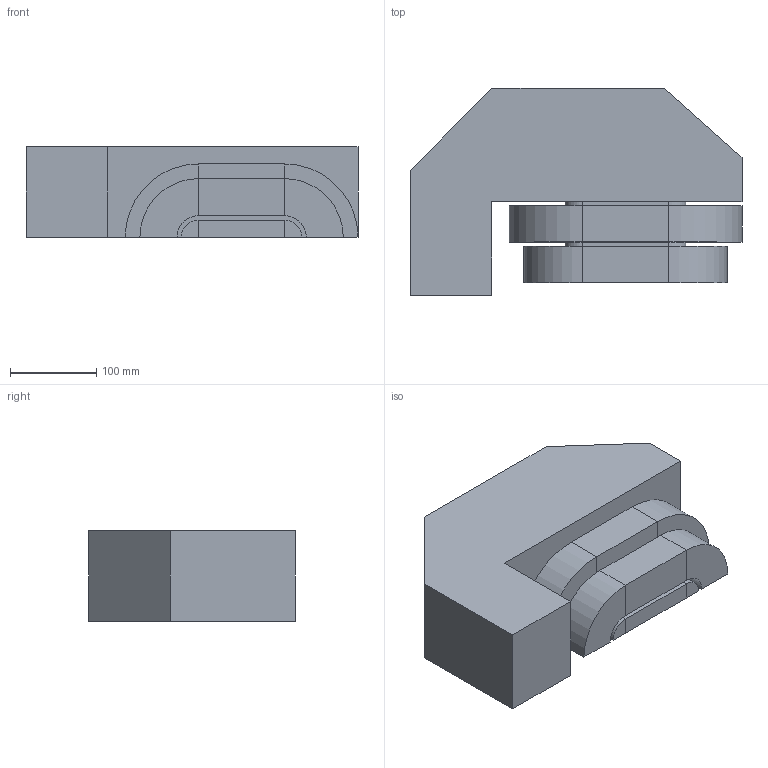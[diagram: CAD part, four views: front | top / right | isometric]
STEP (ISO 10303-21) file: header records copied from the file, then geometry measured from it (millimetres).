
FILE_DESCRIPTION(('STEP AP214'),'1');
FILE_NAME('Superbend_Sirius_MT27_ToHCoils_step.step','2021-11-03T14:09:31',(' '),(' '),'Spatial InterOp 3D',' ',' ');
FILE_SCHEMA(('AUTOMOTIVE_DESIGN { 1 0 10303 214 1 1 1 1 }'));
Length unit declared in the file: millimetre
Products named in the file (1): BodyYoke
Bounding box: 385 x 240 x 105 mm (x, y, z)
Volume: 6910052 mm3; surface area: 390237.2 mm2
Topology: 10 solids, 10 shells, 62 faces, 126 edges, 84 vertices
Faces by surface type: plane 52, cylinder 10
Entity records: 1661 total; most frequent: DIRECTION 290, CARTESIAN_POINT 282, ORIENTED_EDGE 252, EDGE_CURVE 126, LINE 106, VECTOR 106, AXIS2_PLACEMENT_3D 92, VERTEX_POINT 84
